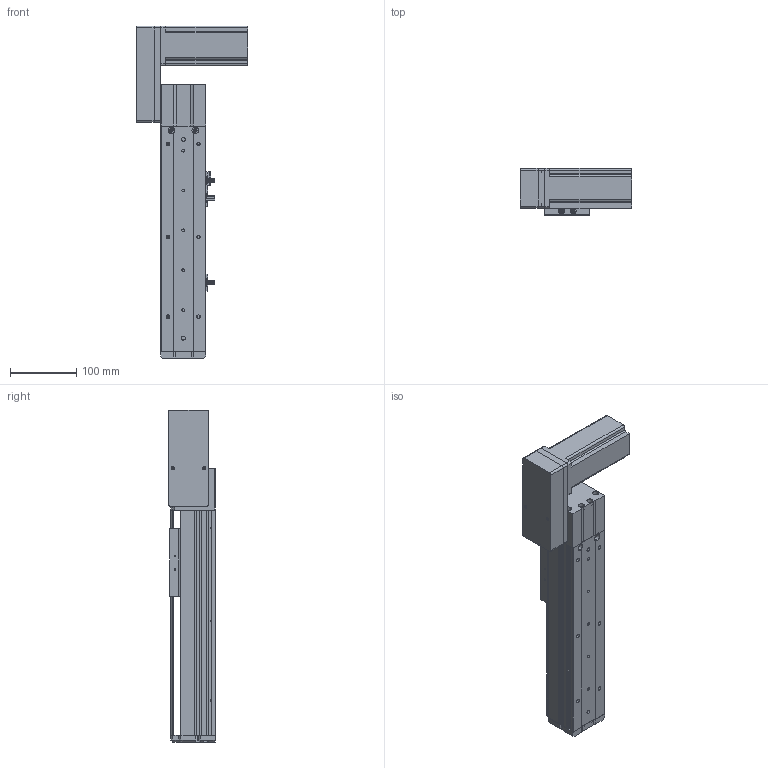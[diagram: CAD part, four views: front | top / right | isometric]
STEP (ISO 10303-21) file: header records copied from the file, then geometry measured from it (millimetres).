
FILE_DESCRIPTION (( 'STEP AP214' ), '1' );
FILE_NAME ('KSD68BS-S150-MRB-CM.STEP', '2019-11-06T07:16:16', ( '微软用户' ), ( '微软中国' ), 'SwSTEP 2.0', 'SolidWorks 2014', '' );
FILE_SCHEMA (( 'AUTOMOTIVE_DESIGN' ));
Length unit declared in the file: millimetre
Products named in the file (11): 68宽单导轨半封闭同步带主动轮座右; 68单导轨同步带半封闭端板; KSD68BS150俴最裔啣圉猾敕; 覜茼え68遵圉猾敕; KSD68BS半封闭同步带传动导轨座; U倰嫖萇EEㄜSX672; 台达ECMA－C20604AS伺服电机（400W); KSD68BS 150俴最菁啣圉猾敕; KSD68BS-S150-MRB-CM; 悵誘欶奻狟殏; 68宽马达安装板连板上折同步带
Assembly tree (12 placements, depth 2):
  KSD68BS-S150-MRB-CM
    KSD68BS 150俴最菁啣圉猾敕
    台达ECMA－C20604AS伺服电机（400W)
    U倰嫖萇EEㄜSX672  x3
    KSD68BS半封闭同步带传动导轨座
    覜茼え68遵圉猾敕
    KSD68BS150俴最裔啣圉猾敕
    68单导轨同步带半封闭端板
    68宽单导轨半封闭同步带主动轮座右
    68宽马达安装板连板上折同步带
    悵誘欶奻狟殏
Bounding box: 167.2 x 70.5 x 499.5 mm (x, y, z)
Volume: 1300099.2 mm3; surface area: 378470.9 mm2
Topology: 13 solids, 13 shells, 1172 faces, 3278 edges, 2124 vertices
Faces by surface type: plane 549, cylinder 540, cone 83
Entity records: 39641 total; most frequent: CARTESIAN_POINT 6886, DIRECTION 5414, ORIENTED_EDGE 5308, EDGE_CURVE 2654, AXIS2_PLACEMENT_3D 1924, VERTEX_POINT 1748, LINE 1566, VECTOR 1566
